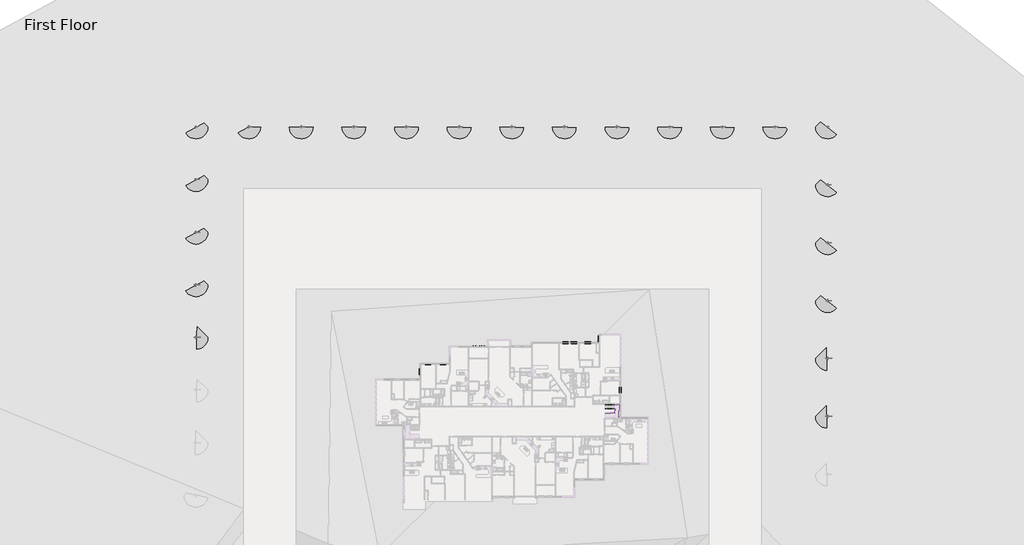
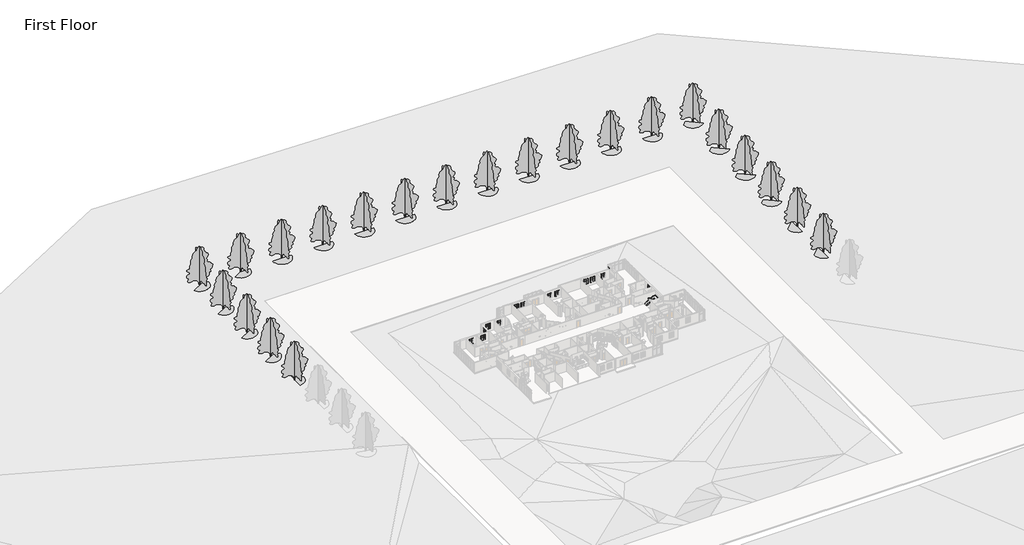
# One storey, part 17 of 17: 56 proxies, 22 geographic elements, 6 members.
"""IFC4 building model written with IfcOpenShell, lengths in millimetres."""

from ifc_helpers import new_model, si_unit, frame, origin, place, context, project, spatial, polyline, outline, extrude, faceted_brep, transform, mapped, element, save
from components import muntin_pattern_2x2_muntin_pattern_2x2_6dad3731, muntin_pattern_2x2_muntin_pattern_2x2_a30a3345, trim_window_exterior_flat_with_sill_92b9b949, trim_window_interior_flat_picture_frame_3bb882cf, rpc_tree_deciduous_lombardy_poplar_40_01077960

model = new_model("IFC4")

# Units and contexts
model_context = context("Model", 3, world=origin())
ifc_project = project(units=[si_unit("LENGTHUNIT", "METRE", prefix="MILLI")], contexts=[model_context])

# Site, building, storey
site = spatial("IfcSite", under=ifc_project)
building = spatial("IfcBuilding", under=site)
storey = spatial("IfcBuildingStorey", under=building, Name="First Floor", Elevation=0.0)

# Proxies
placement = place(None, origin())
muntin_pattern_2x2_muntin_pattern_2x2_shape = muntin_pattern_2x2_muntin_pattern_2x2_6dad3731(model_context)
element("IfcBuildingElementProxy", 1, Name="Muntin Pattern_2x2 : Muntin Pattern_2x2", ObjectType="Muntin Pattern_2x2 : Muntin Pattern_2x2", at=placement, inside=storey, context=model_context, shape_type="MappedRepresentation", body=[
    mapped(muntin_pattern_2x2_muntin_pattern_2x2_shape, transform((57292.8587704, 6466.9511142, 984.25), x_axis=(0.0, -1.0, 0.0), y_axis=(1.0, 0.0, 0.0), z_axis=(0.0, 0.0, 1.0))),
])
element("IfcBuildingElementProxy", 2, Name="Muntin Pattern_2x2 : Muntin Pattern_2x2", ObjectType="Muntin Pattern_2x2 : Muntin Pattern_2x2", at=placement, inside=storey, context=model_context, shape_type="MappedRepresentation", body=[
    mapped(muntin_pattern_2x2_muntin_pattern_2x2_shape, transform((44168.1303001, 17237.1539258, 984.25), x_axis=(1.0, 0.0, 0.0), y_axis=(0.0, 1.0, 0.0), z_axis=(0.0, 0.0, 1.0))),
])
element("IfcBuildingElementProxy", 3, Name="Muntin Pattern_2x2 : Muntin Pattern_2x2", ObjectType="Muntin Pattern_2x2 : Muntin Pattern_2x2", at=placement, inside=storey, context=model_context, shape_type="MappedRepresentation", body=[
    mapped(muntin_pattern_2x2_muntin_pattern_2x2_shape, transform((49322.2065151, 17237.1539258, 984.25), x_axis=(1.0, 0.0, 0.0), y_axis=(0.0, 1.0, 0.0), z_axis=(0.0, 0.0, 1.0))),
])
element("IfcBuildingElementProxy", 4, Name="Muntin Pattern_2x2 : Muntin Pattern_2x2", ObjectType="Muntin Pattern_2x2 : Muntin Pattern_2x2", at=placement, inside=storey, context=model_context, shape_type="MappedRepresentation", body=[
    mapped(muntin_pattern_2x2_muntin_pattern_2x2_shape, transform((5255.9772364, 8703.1052849, 984.25), x_axis=(1.0, 0.0, 0.0), y_axis=(0.0, 1.0, 0.0), z_axis=(0.0, 0.0, 1.0))),
])
element("IfcBuildingElementProxy", 5, Name="Muntin Pattern_2x2 : Muntin Pattern_2x2", ObjectType="Muntin Pattern_2x2 : Muntin Pattern_2x2", at=placement, inside=storey, context=model_context, shape_type="MappedRepresentation", body=[
    mapped(muntin_pattern_2x2_muntin_pattern_2x2_shape, transform((8741.9706159, 8703.1052849, 984.25), x_axis=(1.0, 0.0, 0.0), y_axis=(0.0, 1.0, 0.0), z_axis=(0.0, 0.0, 1.0))),
])
element("IfcBuildingElementProxy", 6, Name="Muntin Pattern_2x2 : Muntin Pattern_2x2", ObjectType="Muntin Pattern_2x2 : Muntin Pattern_2x2", at=placement, inside=storey, context=model_context, shape_type="MappedRepresentation", body=[
    mapped(muntin_pattern_2x2_muntin_pattern_2x2_shape, transform((10691.4206159, 10096.9302849, 984.25), x_axis=(0.0, 1.0, 0.0), y_axis=(-1.0, 0.0, 0.0), z_axis=(0.0, 0.0, 1.0))),
])
element("IfcBuildingElementProxy", 7, Name="Muntin Pattern_2x2 : Muntin Pattern_2x2", ObjectType="Muntin Pattern_2x2 : Muntin Pattern_2x2", at=placement, inside=storey, context=model_context, shape_type="MappedRepresentation", body=[
    mapped(muntin_pattern_2x2_muntin_pattern_2x2_shape, transform((12342.4127788, 12360.7052849, 984.25), x_axis=(1.0, 0.0, 0.0), y_axis=(0.0, 1.0, 0.0), z_axis=(0.0, 0.0, 1.0))),
])
element("IfcBuildingElementProxy", 8, Name="Muntin Pattern_2x2 : Muntin Pattern_2x2", ObjectType="Muntin Pattern_2x2 : Muntin Pattern_2x2", at=placement, inside=storey, context=model_context, shape_type="MappedRepresentation", body=[
    mapped(muntin_pattern_2x2_muntin_pattern_2x2_shape, transform((15770.2335512, 12360.7052849, 984.25), x_axis=(1.0, 0.0, 0.0), y_axis=(0.0, 1.0, 0.0), z_axis=(0.0, 0.0, 1.0))),
])
element("IfcBuildingElementProxy", 9, Name="Muntin Pattern_2x2 : Muntin Pattern_2x2", ObjectType="Muntin Pattern_2x2 : Muntin Pattern_2x2", at=placement, inside=storey, context=model_context, shape_type="MappedRepresentation", body=[
    mapped(muntin_pattern_2x2_muntin_pattern_2x2_shape, transform((23091.4448571, 16338.2416823, 984.25), x_axis=(1.0, 0.0, 0.0), y_axis=(0.0, 1.0, 0.0), z_axis=(0.0, 0.0, 1.0))),
])
element("IfcBuildingElementProxy", 10, Name="Muntin Pattern_2x2 : Muntin Pattern_2x2", ObjectType="Muntin Pattern_2x2 : Muntin Pattern_2x2", at=placement, inside=storey, context=model_context, shape_type="MappedRepresentation", body=[
    mapped(muntin_pattern_2x2_muntin_pattern_2x2_shape, transform((25039.3073571, 16338.2416823, 984.25), x_axis=(1.0, 0.0, 0.0), y_axis=(0.0, 1.0, 0.0), z_axis=(0.0, 0.0, 1.0))),
])
element("IfcBuildingElementProxy", 11, Name="Muntin Pattern_2x2 : Muntin Pattern_2x2", ObjectType="Muntin Pattern_2x2 : Muntin Pattern_2x2", at=placement, inside=storey, context=model_context, shape_type="MappedRepresentation", body=[
    mapped(muntin_pattern_2x2_muntin_pattern_2x2_shape, transform((32933.4798474, 16350.1365339, 984.25), x_axis=(1.0, 0.0, 0.0), y_axis=(0.0, 1.0, 0.0), z_axis=(0.0, 0.0, 1.0))),
])
element("IfcBuildingElementProxy", 12, Name="Muntin Pattern_2x2 : Muntin Pattern_2x2", ObjectType="Muntin Pattern_2x2 : Muntin Pattern_2x2", at=placement, inside=storey, context=model_context, shape_type="MappedRepresentation", body=[
    mapped(muntin_pattern_2x2_muntin_pattern_2x2_shape, transform((35152.7178001, 16350.1365339, 984.25), x_axis=(1.0, 0.0, 0.0), y_axis=(0.0, 1.0, 0.0), z_axis=(0.0, 0.0, 1.0))),
])
element("IfcBuildingElementProxy", 13, Name="Muntin Pattern_2x2 : Muntin Pattern_2x2", ObjectType="Muntin Pattern_2x2 : Muntin Pattern_2x2", at=placement, inside=storey, context=model_context, shape_type="MappedRepresentation", body=[
    mapped(muntin_pattern_2x2_muntin_pattern_2x2_shape, transform((46113.4815143, 17237.1539258, 984.25), x_axis=(1.0, 0.0, 0.0), y_axis=(0.0, 1.0, 0.0), z_axis=(0.0, 0.0, 1.0))),
])
element("IfcBuildingElementProxy", 14, Name="Muntin Pattern_2x2 : Muntin Pattern_2x2", ObjectType="Muntin Pattern_2x2 : Muntin Pattern_2x2", at=placement, inside=storey, context=model_context, shape_type="MappedRepresentation", body=[
    mapped(muntin_pattern_2x2_muntin_pattern_2x2_shape, transform((52166.5909229, 17728.7417038, 984.25), x_axis=(0.0, 1.0, 0.0), y_axis=(-1.0, 0.0, 0.0), z_axis=(0.0, 0.0, 1.0))),
])
muntin_pattern_2x2_muntin_pattern_2x2_2_shape = muntin_pattern_2x2_muntin_pattern_2x2_a30a3345(model_context)
element("IfcBuildingElementProxy", 15, Name="Muntin Pattern_2x2 : Muntin Pattern_2x2", ObjectType="Muntin Pattern_2x2 : Muntin Pattern_2x2", at=placement, inside=storey, context=model_context, shape_type="MappedRepresentation", body=[
    mapped(muntin_pattern_2x2_muntin_pattern_2x2_2_shape, transform((57292.8587704, 5860.5261142, 984.25), x_axis=(0.0, 1.0, 0.0), y_axis=(-1.0, 0.0, 0.0), z_axis=(0.0, 0.0, 1.0))),
])
element("IfcBuildingElementProxy", 16, Name="Muntin Pattern_2x2 : Muntin Pattern_2x2", ObjectType="Muntin Pattern_2x2 : Muntin Pattern_2x2", at=placement, inside=storey, context=model_context, shape_type="MappedRepresentation", body=[
    mapped(muntin_pattern_2x2_muntin_pattern_2x2_2_shape, transform((44774.5553001, 17237.1539258, 984.25), x_axis=(-1.0, 0.0, 0.0), y_axis=(0.0, -1.0, 0.0), z_axis=(0.0, 0.0, 1.0))),
])
element("IfcBuildingElementProxy", 17, Name="Muntin Pattern_2x2 : Muntin Pattern_2x2", ObjectType="Muntin Pattern_2x2 : Muntin Pattern_2x2", at=placement, inside=storey, context=model_context, shape_type="MappedRepresentation", body=[
    mapped(muntin_pattern_2x2_muntin_pattern_2x2_2_shape, transform((49928.6315151, 17237.1539258, 984.25), x_axis=(-1.0, 0.0, 0.0), y_axis=(0.0, -1.0, 0.0), z_axis=(0.0, 0.0, 1.0))),
])
element("IfcBuildingElementProxy", 18, Name="Muntin Pattern_2x2 : Muntin Pattern_2x2", ObjectType="Muntin Pattern_2x2 : Muntin Pattern_2x2", at=placement, inside=storey, context=model_context, shape_type="MappedRepresentation", body=[
    mapped(muntin_pattern_2x2_muntin_pattern_2x2_2_shape, transform((5862.4022364, 8703.1052849, 984.25), x_axis=(-1.0, 0.0, 0.0), y_axis=(0.0, -1.0, 0.0), z_axis=(0.0, 0.0, 1.0))),
])
element("IfcBuildingElementProxy", 19, Name="Muntin Pattern_2x2 : Muntin Pattern_2x2", ObjectType="Muntin Pattern_2x2 : Muntin Pattern_2x2", at=placement, inside=storey, context=model_context, shape_type="MappedRepresentation", body=[
    mapped(muntin_pattern_2x2_muntin_pattern_2x2_2_shape, transform((9348.3956159, 8703.1052849, 984.25), x_axis=(-1.0, 0.0, 0.0), y_axis=(0.0, -1.0, 0.0), z_axis=(0.0, 0.0, 1.0))),
])
element("IfcBuildingElementProxy", 20, Name="Muntin Pattern_2x2 : Muntin Pattern_2x2", ObjectType="Muntin Pattern_2x2 : Muntin Pattern_2x2", at=placement, inside=storey, context=model_context, shape_type="MappedRepresentation", body=[
    mapped(muntin_pattern_2x2_muntin_pattern_2x2_2_shape, transform((10691.4206159, 10703.3552849, 984.25), x_axis=(0.0, -1.0, 0.0), y_axis=(1.0, 0.0, 0.0), z_axis=(0.0, 0.0, 1.0))),
])
element("IfcBuildingElementProxy", 21, Name="Muntin Pattern_2x2 : Muntin Pattern_2x2", ObjectType="Muntin Pattern_2x2 : Muntin Pattern_2x2", at=placement, inside=storey, context=model_context, shape_type="MappedRepresentation", body=[
    mapped(muntin_pattern_2x2_muntin_pattern_2x2_2_shape, transform((12948.8377788, 12360.7052849, 984.25), x_axis=(-1.0, 0.0, 0.0), y_axis=(0.0, -1.0, 0.0), z_axis=(0.0, 0.0, 1.0))),
])
element("IfcBuildingElementProxy", 22, Name="Muntin Pattern_2x2 : Muntin Pattern_2x2", ObjectType="Muntin Pattern_2x2 : Muntin Pattern_2x2", at=placement, inside=storey, context=model_context, shape_type="MappedRepresentation", body=[
    mapped(muntin_pattern_2x2_muntin_pattern_2x2_2_shape, transform((16376.6585512, 12360.7052849, 984.25), x_axis=(-1.0, 0.0, 0.0), y_axis=(0.0, -1.0, 0.0), z_axis=(0.0, 0.0, 1.0))),
])
element("IfcBuildingElementProxy", 23, Name="Muntin Pattern_2x2 : Muntin Pattern_2x2", ObjectType="Muntin Pattern_2x2 : Muntin Pattern_2x2", at=placement, inside=storey, context=model_context, shape_type="MappedRepresentation", body=[
    mapped(muntin_pattern_2x2_muntin_pattern_2x2_2_shape, transform((23697.8698571, 16338.2416823, 984.25), x_axis=(-1.0, 0.0, 0.0), y_axis=(0.0, -1.0, 0.0), z_axis=(0.0, 0.0, 1.0))),
])
element("IfcBuildingElementProxy", 24, Name="Muntin Pattern_2x2 : Muntin Pattern_2x2", ObjectType="Muntin Pattern_2x2 : Muntin Pattern_2x2", at=placement, inside=storey, context=model_context, shape_type="MappedRepresentation", body=[
    mapped(muntin_pattern_2x2_muntin_pattern_2x2_2_shape, transform((25645.7323571, 16338.2416823, 984.25), x_axis=(-1.0, 0.0, 0.0), y_axis=(0.0, -1.0, 0.0), z_axis=(0.0, 0.0, 1.0))),
])
element("IfcBuildingElementProxy", 25, Name="Muntin Pattern_2x2 : Muntin Pattern_2x2", ObjectType="Muntin Pattern_2x2 : Muntin Pattern_2x2", at=placement, inside=storey, context=model_context, shape_type="MappedRepresentation", body=[
    mapped(muntin_pattern_2x2_muntin_pattern_2x2_2_shape, transform((33539.9048474, 16350.1365339, 984.25), x_axis=(-1.0, 0.0, 0.0), y_axis=(0.0, -1.0, 0.0), z_axis=(0.0, 0.0, 1.0))),
])
element("IfcBuildingElementProxy", 26, Name="Muntin Pattern_2x2 : Muntin Pattern_2x2", ObjectType="Muntin Pattern_2x2 : Muntin Pattern_2x2", at=placement, inside=storey, context=model_context, shape_type="MappedRepresentation", body=[
    mapped(muntin_pattern_2x2_muntin_pattern_2x2_2_shape, transform((35759.1428001, 16350.1365339, 984.25), x_axis=(-1.0, 0.0, 0.0), y_axis=(0.0, -1.0, 0.0), z_axis=(0.0, 0.0, 1.0))),
])
element("IfcBuildingElementProxy", 27, Name="Muntin Pattern_2x2 : Muntin Pattern_2x2", ObjectType="Muntin Pattern_2x2 : Muntin Pattern_2x2", at=placement, inside=storey, context=model_context, shape_type="MappedRepresentation", body=[
    mapped(muntin_pattern_2x2_muntin_pattern_2x2_2_shape, transform((46719.9065143, 17237.1539258, 984.25), x_axis=(-1.0, 0.0, 0.0), y_axis=(0.0, -1.0, 0.0), z_axis=(0.0, 0.0, 1.0))),
])
element("IfcBuildingElementProxy", 28, Name="Muntin Pattern_2x2 : Muntin Pattern_2x2", ObjectType="Muntin Pattern_2x2 : Muntin Pattern_2x2", at=placement, inside=storey, context=model_context, shape_type="MappedRepresentation", body=[
    mapped(muntin_pattern_2x2_muntin_pattern_2x2_2_shape, transform((52166.5909229, 18335.1667038, 984.25), x_axis=(0.0, -1.0, 0.0), y_axis=(1.0, 0.0, 0.0), z_axis=(0.0, 0.0, 1.0))),
])
trim_window_exterior_flat_with_sill_shape = trim_window_exterior_flat_with_sill_92b9b949(model_context)
element("IfcBuildingElementProxy", 29, Name="Trim-Window-Exterior-Flat : with Sill", ObjectType="Trim-Window-Exterior-Flat : with Sill", at=placement, inside=storey, context=model_context, shape_type="MappedRepresentation", body=[
    mapped(trim_window_exterior_flat_with_sill_shape, transform((57302.3837704, 6163.7386142, 2438.4), x_axis=(0.0, 1.0, 0.0), y_axis=(0.0, 0.0, 1.0), z_axis=(1.0, 0.0, 0.0))),
])
element("IfcBuildingElementProxy", 30, Name="Trim-Window-Exterior-Flat : with Sill", ObjectType="Trim-Window-Exterior-Flat : with Sill", at=placement, inside=storey, context=model_context, shape_type="MappedRepresentation", body=[
    mapped(trim_window_exterior_flat_with_sill_shape, transform((44471.3428001, 17246.6789258, 2438.4), x_axis=(-1.0, 0.0, 0.0), y_axis=(0.0, 0.0, 1.0), z_axis=(0.0, 1.0, 0.0))),
])
element("IfcBuildingElementProxy", 31, Name="Trim-Window-Exterior-Flat : with Sill", ObjectType="Trim-Window-Exterior-Flat : with Sill", at=placement, inside=storey, context=model_context, shape_type="MappedRepresentation", body=[
    mapped(trim_window_exterior_flat_with_sill_shape, transform((49625.4190151, 17246.6789258, 2438.4), x_axis=(-1.0, 0.0, 0.0), y_axis=(0.0, 0.0, 1.0), z_axis=(0.0, 1.0, 0.0))),
])
element("IfcBuildingElementProxy", 32, Name="Trim-Window-Exterior-Flat : with Sill", ObjectType="Trim-Window-Exterior-Flat : with Sill", at=placement, inside=storey, context=model_context, shape_type="MappedRepresentation", body=[
    mapped(trim_window_exterior_flat_with_sill_shape, transform((5559.1897364, 8712.6302849, 2438.4), x_axis=(-1.0, 0.0, 0.0), y_axis=(0.0, 0.0, 1.0), z_axis=(0.0, 1.0, 0.0))),
])
element("IfcBuildingElementProxy", 33, Name="Trim-Window-Exterior-Flat : with Sill", ObjectType="Trim-Window-Exterior-Flat : with Sill", at=placement, inside=storey, context=model_context, shape_type="MappedRepresentation", body=[
    mapped(trim_window_exterior_flat_with_sill_shape, transform((9045.1831159, 8712.6302849, 2438.4), x_axis=(-1.0, 0.0, 0.0), y_axis=(0.0, 0.0, 1.0), z_axis=(0.0, 1.0, 0.0))),
])
element("IfcBuildingElementProxy", 34, Name="Trim-Window-Exterior-Flat : with Sill", ObjectType="Trim-Window-Exterior-Flat : with Sill", at=placement, inside=storey, context=model_context, shape_type="MappedRepresentation", body=[
    mapped(trim_window_exterior_flat_with_sill_shape, transform((10681.8956159, 10400.1427849, 2438.4), x_axis=(0.0, -1.0, 0.0), y_axis=(0.0, 0.0, 1.0), z_axis=(-1.0, 0.0, 0.0))),
])
element("IfcBuildingElementProxy", 35, Name="Trim-Window-Exterior-Flat : with Sill", ObjectType="Trim-Window-Exterior-Flat : with Sill", at=placement, inside=storey, context=model_context, shape_type="MappedRepresentation", body=[
    mapped(trim_window_exterior_flat_with_sill_shape, transform((12645.6252788, 12370.2302849, 2438.4), x_axis=(-1.0, 0.0, 0.0), y_axis=(0.0, 0.0, 1.0), z_axis=(0.0, 1.0, 0.0))),
])
element("IfcBuildingElementProxy", 36, Name="Trim-Window-Exterior-Flat : with Sill", ObjectType="Trim-Window-Exterior-Flat : with Sill", at=placement, inside=storey, context=model_context, shape_type="MappedRepresentation", body=[
    mapped(trim_window_exterior_flat_with_sill_shape, transform((16073.4460512, 12370.2302849, 2438.4), x_axis=(-1.0, 0.0, 0.0), y_axis=(0.0, 0.0, 1.0), z_axis=(0.0, 1.0, 0.0))),
])
element("IfcBuildingElementProxy", 37, Name="Trim-Window-Exterior-Flat : with Sill", ObjectType="Trim-Window-Exterior-Flat : with Sill", at=placement, inside=storey, context=model_context, shape_type="MappedRepresentation", body=[
    mapped(trim_window_exterior_flat_with_sill_shape, transform((23394.6573571, 16347.7666823, 2438.4), x_axis=(-1.0, 0.0, 0.0), y_axis=(0.0, 0.0, 1.0), z_axis=(0.0, 1.0, 0.0))),
])
element("IfcBuildingElementProxy", 38, Name="Trim-Window-Exterior-Flat : with Sill", ObjectType="Trim-Window-Exterior-Flat : with Sill", at=placement, inside=storey, context=model_context, shape_type="MappedRepresentation", body=[
    mapped(trim_window_exterior_flat_with_sill_shape, transform((25342.5198571, 16347.7666823, 2438.4), x_axis=(-1.0, 0.0, 0.0), y_axis=(0.0, 0.0, 1.0), z_axis=(0.0, 1.0, 0.0))),
])
element("IfcBuildingElementProxy", 39, Name="Trim-Window-Exterior-Flat : with Sill", ObjectType="Trim-Window-Exterior-Flat : with Sill", at=placement, inside=storey, context=model_context, shape_type="MappedRepresentation", body=[
    mapped(trim_window_exterior_flat_with_sill_shape, transform((33236.6923474, 16359.6615339, 2438.4), x_axis=(-1.0, 0.0, 0.0), y_axis=(0.0, 0.0, 1.0), z_axis=(0.0, 1.0, 0.0))),
])
element("IfcBuildingElementProxy", 40, Name="Trim-Window-Exterior-Flat : with Sill", ObjectType="Trim-Window-Exterior-Flat : with Sill", at=placement, inside=storey, context=model_context, shape_type="MappedRepresentation", body=[
    mapped(trim_window_exterior_flat_with_sill_shape, transform((35455.9303001, 16359.6615339, 2438.4), x_axis=(-1.0, 0.0, 0.0), y_axis=(0.0, 0.0, 1.0), z_axis=(0.0, 1.0, 0.0))),
])
element("IfcBuildingElementProxy", 41, Name="Trim-Window-Exterior-Flat : with Sill", ObjectType="Trim-Window-Exterior-Flat : with Sill", at=placement, inside=storey, context=model_context, shape_type="MappedRepresentation", body=[
    mapped(trim_window_exterior_flat_with_sill_shape, transform((46416.6940143, 17246.6789258, 2438.4), x_axis=(-1.0, 0.0, 0.0), y_axis=(0.0, 0.0, 1.0), z_axis=(0.0, 1.0, 0.0))),
])
element("IfcBuildingElementProxy", 42, Name="Trim-Window-Exterior-Flat : with Sill", ObjectType="Trim-Window-Exterior-Flat : with Sill", at=placement, inside=storey, context=model_context, shape_type="MappedRepresentation", body=[
    mapped(trim_window_exterior_flat_with_sill_shape, transform((52157.0659229, 18031.9542038, 2438.4), x_axis=(0.0, -1.0, 0.0), y_axis=(0.0, 0.0, 1.0), z_axis=(-1.0, 0.0, 0.0))),
])
trim_window_interior_flat_picture_frame_shape = trim_window_interior_flat_picture_frame_3bb882cf(model_context)
element("IfcBuildingElementProxy", 43, Name="Trim-Window-Interior-Flat : Picture Frame", ObjectType="Trim-Window-Interior-Flat : Picture Frame", at=placement, inside=storey, context=model_context, shape_type="MappedRepresentation", body=[
    mapped(trim_window_interior_flat_picture_frame_shape, transform((57019.8087704, 6163.7386142, 2438.4), x_axis=(0.0, -1.0, 0.0), y_axis=(0.0, 0.0, 1.0), z_axis=(-1.0, 0.0, 0.0))),
])
element("IfcBuildingElementProxy", 44, Name="Trim-Window-Interior-Flat : Picture Frame", ObjectType="Trim-Window-Interior-Flat : Picture Frame", at=placement, inside=storey, context=model_context, shape_type="MappedRepresentation", body=[
    mapped(trim_window_interior_flat_picture_frame_shape, transform((44471.3428001, 16964.1039258, 2438.4), x_axis=(1.0, 0.0, 0.0), y_axis=(0.0, 0.0, 1.0), z_axis=(0.0, -1.0, 0.0))),
])
element("IfcBuildingElementProxy", 45, Name="Trim-Window-Interior-Flat : Picture Frame", ObjectType="Trim-Window-Interior-Flat : Picture Frame", at=placement, inside=storey, context=model_context, shape_type="MappedRepresentation", body=[
    mapped(trim_window_interior_flat_picture_frame_shape, transform((49625.4190151, 16964.1039258, 2438.4), x_axis=(1.0, 0.0, 0.0), y_axis=(0.0, 0.0, 1.0), z_axis=(0.0, -1.0, 0.0))),
])
element("IfcBuildingElementProxy", 46, Name="Trim-Window-Interior-Flat : Picture Frame", ObjectType="Trim-Window-Interior-Flat : Picture Frame", at=placement, inside=storey, context=model_context, shape_type="MappedRepresentation", body=[
    mapped(trim_window_interior_flat_picture_frame_shape, transform((5559.1897364, 8430.0552849, 2438.4), x_axis=(1.0, 0.0, 0.0), y_axis=(0.0, 0.0, 1.0), z_axis=(0.0, -1.0, 0.0))),
])
element("IfcBuildingElementProxy", 47, Name="Trim-Window-Interior-Flat : Picture Frame", ObjectType="Trim-Window-Interior-Flat : Picture Frame", at=placement, inside=storey, context=model_context, shape_type="MappedRepresentation", body=[
    mapped(trim_window_interior_flat_picture_frame_shape, transform((9045.1831159, 8430.0552849, 2438.4), x_axis=(1.0, 0.0, 0.0), y_axis=(0.0, 0.0, 1.0), z_axis=(0.0, -1.0, 0.0))),
])
element("IfcBuildingElementProxy", 48, Name="Trim-Window-Interior-Flat : Picture Frame", ObjectType="Trim-Window-Interior-Flat : Picture Frame", at=placement, inside=storey, context=model_context, shape_type="MappedRepresentation", body=[
    mapped(trim_window_interior_flat_picture_frame_shape, transform((10964.4706159, 10400.1427849, 2438.4), x_axis=(0.0, 1.0, 0.0), y_axis=(0.0, 0.0, 1.0), z_axis=(1.0, 0.0, 0.0))),
])
element("IfcBuildingElementProxy", 49, Name="Trim-Window-Interior-Flat : Picture Frame", ObjectType="Trim-Window-Interior-Flat : Picture Frame", at=placement, inside=storey, context=model_context, shape_type="MappedRepresentation", body=[
    mapped(trim_window_interior_flat_picture_frame_shape, transform((12645.6252788, 12087.6552849, 2438.4), x_axis=(1.0, 0.0, 0.0), y_axis=(0.0, 0.0, 1.0), z_axis=(0.0, -1.0, 0.0))),
])
element("IfcBuildingElementProxy", 50, Name="Trim-Window-Interior-Flat : Picture Frame", ObjectType="Trim-Window-Interior-Flat : Picture Frame", at=placement, inside=storey, context=model_context, shape_type="MappedRepresentation", body=[
    mapped(trim_window_interior_flat_picture_frame_shape, transform((16073.4460512, 12087.6552849, 2438.4), x_axis=(1.0, 0.0, 0.0), y_axis=(0.0, 0.0, 1.0), z_axis=(0.0, -1.0, 0.0))),
])
element("IfcBuildingElementProxy", 51, Name="Trim-Window-Interior-Flat : Picture Frame", ObjectType="Trim-Window-Interior-Flat : Picture Frame", at=placement, inside=storey, context=model_context, shape_type="MappedRepresentation", body=[
    mapped(trim_window_interior_flat_picture_frame_shape, transform((23394.6573571, 16065.1916823, 2438.4), x_axis=(1.0, 0.0, 0.0), y_axis=(0.0, 0.0, 1.0), z_axis=(0.0, -1.0, 0.0))),
])
element("IfcBuildingElementProxy", 52, Name="Trim-Window-Interior-Flat : Picture Frame", ObjectType="Trim-Window-Interior-Flat : Picture Frame", at=placement, inside=storey, context=model_context, shape_type="MappedRepresentation", body=[
    mapped(trim_window_interior_flat_picture_frame_shape, transform((25342.5198571, 16065.1916823, 2438.4), x_axis=(1.0, 0.0, 0.0), y_axis=(0.0, 0.0, 1.0), z_axis=(0.0, -1.0, 0.0))),
])
element("IfcBuildingElementProxy", 53, Name="Trim-Window-Interior-Flat : Picture Frame", ObjectType="Trim-Window-Interior-Flat : Picture Frame", at=placement, inside=storey, context=model_context, shape_type="MappedRepresentation", body=[
    mapped(trim_window_interior_flat_picture_frame_shape, transform((33236.6923474, 16077.0865339, 2438.4), x_axis=(1.0, 0.0, 0.0), y_axis=(0.0, 0.0, 1.0), z_axis=(0.0, -1.0, 0.0))),
])
element("IfcBuildingElementProxy", 54, Name="Trim-Window-Interior-Flat : Picture Frame", ObjectType="Trim-Window-Interior-Flat : Picture Frame", at=placement, inside=storey, context=model_context, shape_type="MappedRepresentation", body=[
    mapped(trim_window_interior_flat_picture_frame_shape, transform((35455.9303001, 16077.0865339, 2438.4), x_axis=(1.0, 0.0, 0.0), y_axis=(0.0, 0.0, 1.0), z_axis=(0.0, -1.0, 0.0))),
])
element("IfcBuildingElementProxy", 55, Name="Trim-Window-Interior-Flat : Picture Frame", ObjectType="Trim-Window-Interior-Flat : Picture Frame", at=placement, inside=storey, context=model_context, shape_type="MappedRepresentation", body=[
    mapped(trim_window_interior_flat_picture_frame_shape, transform((46416.6940143, 16964.1039258, 2438.4), x_axis=(1.0, 0.0, 0.0), y_axis=(0.0, 0.0, 1.0), z_axis=(0.0, -1.0, 0.0))),
])
element("IfcBuildingElementProxy", 56, Name="Trim-Window-Interior-Flat : Picture Frame", ObjectType="Trim-Window-Interior-Flat : Picture Frame", at=placement, inside=storey, context=model_context, shape_type="MappedRepresentation", body=[
    mapped(trim_window_interior_flat_picture_frame_shape, transform((52439.6409229, 18031.9542038, 2438.4), x_axis=(0.0, 1.0, 0.0), y_axis=(0.0, 0.0, 1.0), z_axis=(1.0, 0.0, 0.0))),
])

# Geographic elements
rpc_tree_deciduous_lombardy_poplar_40_shape = rpc_tree_deciduous_lombardy_poplar_40_01077960(model_context)
element("IfcGeographicElement", 57, ObjectType="RPC Tree - Deciduous : Lombardy Poplar - 40'", at=placement, inside=storey, context=model_context, shape_type="MappedRepresentation", body=[
    mapped(rpc_tree_deciduous_lombardy_poplar_40_shape, transform((-41124.9762591, 67129.5339202, 81.0796974), x_axis=(1.0, 0.0, 0.0), y_axis=(0.0, 1.0, 0.0), z_axis=(0.0, 0.0, 1.0))),
])
element("IfcGeographicElement", 58, ObjectType="RPC Tree - Deciduous : Lombardy Poplar - 40'", at=placement, inside=storey, context=model_context, shape_type="MappedRepresentation", body=[
    mapped(rpc_tree_deciduous_lombardy_poplar_40_shape, transform((-28932.9762591, 67129.5339202, 50.0737296), x_axis=(1.0, 0.0, 0.0), y_axis=(0.0, 1.0, 0.0), z_axis=(0.0, 0.0, 1.0))),
])
element("IfcGeographicElement", 59, ObjectType="RPC Tree - Deciduous : Lombardy Poplar - 40'", at=placement, inside=storey, context=model_context, shape_type="MappedRepresentation", body=[
    mapped(rpc_tree_deciduous_lombardy_poplar_40_shape, transform((-16740.9762591, 67129.5339202, 50.3045168), x_axis=(1.0, 0.0, 0.0), y_axis=(0.0, 1.0, 0.0), z_axis=(0.0, 0.0, 1.0))),
])
element("IfcGeographicElement", 60, ObjectType="RPC Tree - Deciduous : Lombardy Poplar - 40'", at=placement, inside=storey, context=model_context, shape_type="MappedRepresentation", body=[
    mapped(rpc_tree_deciduous_lombardy_poplar_40_shape, transform((-4548.9762591, 67129.5339202, 50.535304), x_axis=(1.0, 0.0, 0.0), y_axis=(0.0, 1.0, 0.0), z_axis=(0.0, 0.0, 1.0))),
])
element("IfcGeographicElement", 61, ObjectType="RPC Tree - Deciduous : Lombardy Poplar - 40'", at=placement, inside=storey, context=model_context, shape_type="MappedRepresentation", body=[
    mapped(rpc_tree_deciduous_lombardy_poplar_40_shape, transform((7643.0237409, 67129.5339202, 50.7660912), x_axis=(1.0, 0.0, 0.0), y_axis=(0.0, 1.0, 0.0), z_axis=(0.0, 0.0, 1.0))),
])
element("IfcGeographicElement", 62, ObjectType="RPC Tree - Deciduous : Lombardy Poplar - 40'", at=placement, inside=storey, context=model_context, shape_type="MappedRepresentation", body=[
    mapped(rpc_tree_deciduous_lombardy_poplar_40_shape, transform((19835.0237409, 67129.5339202, 52.2718945), x_axis=(1.0, 0.0, 0.0), y_axis=(0.0, 1.0, 0.0), z_axis=(0.0, 0.0, 1.0))),
])
element("IfcGeographicElement", 63, ObjectType="RPC Tree - Deciduous : Lombardy Poplar - 40'", at=placement, inside=storey, context=model_context, shape_type="MappedRepresentation", body=[
    mapped(rpc_tree_deciduous_lombardy_poplar_40_shape, transform((32027.0237409, 67129.5339202, 54.3681151), x_axis=(1.0, 0.0, 0.0), y_axis=(0.0, 1.0, 0.0), z_axis=(0.0, 0.0, 1.0))),
])
element("IfcGeographicElement", 64, ObjectType="RPC Tree - Deciduous : Lombardy Poplar - 40'", at=placement, inside=storey, context=model_context, shape_type="MappedRepresentation", body=[
    mapped(rpc_tree_deciduous_lombardy_poplar_40_shape, transform((44219.0237409, 67129.5339202, 56.4643357), x_axis=(1.0, 0.0, 0.0), y_axis=(0.0, 1.0, 0.0), z_axis=(0.0, 0.0, 1.0))),
])
element("IfcGeographicElement", 65, ObjectType="RPC Tree - Deciduous : Lombardy Poplar - 40'", at=placement, inside=storey, context=model_context, shape_type="MappedRepresentation", body=[
    mapped(rpc_tree_deciduous_lombardy_poplar_40_shape, transform((56411.0237409, 67129.5339202, 58.5605563), x_axis=(1.0, 0.0, 0.0), y_axis=(0.0, 1.0, 0.0), z_axis=(0.0, 0.0, 1.0))),
])
element("IfcGeographicElement", 66, ObjectType="RPC Tree - Deciduous : Lombardy Poplar - 40'", at=placement, inside=storey, context=model_context, shape_type="MappedRepresentation", body=[
    mapped(rpc_tree_deciduous_lombardy_poplar_40_shape, transform((68603.0237409, 67129.5339202, 60.6567769), x_axis=(1.0, 0.0, 0.0), y_axis=(0.0, 1.0, 0.0), z_axis=(0.0, 0.0, 1.0))),
])
element("IfcGeographicElement", 67, ObjectType="RPC Tree - Deciduous : Lombardy Poplar - 40'", at=placement, inside=storey, context=model_context, shape_type="MappedRepresentation", body=[
    mapped(rpc_tree_deciduous_lombardy_poplar_40_shape, transform((80795.0237409, 67129.5339202, 62.7529975), x_axis=(1.0, 0.0, 0.0), y_axis=(0.0, 1.0, 0.0), z_axis=(0.0, 0.0, 1.0))),
])
element("IfcGeographicElement", 68, ObjectType="RPC Tree - Deciduous : Lombardy Poplar - 40'", at=placement, inside=storey, context=model_context, shape_type="MappedRepresentation", body=[
    mapped(rpc_tree_deciduous_lombardy_poplar_40_shape, transform((92987.0237409, 67129.5339202, 64.8492181), x_axis=(1.0, 0.0, 0.0), y_axis=(0.0, 1.0, 0.0), z_axis=(0.0, 0.0, 1.0))),
])
element("IfcGeographicElement", 69, ObjectType="RPC Tree - Deciduous : Lombardy Poplar - 40'", at=placement, inside=storey, context=model_context, shape_type="MappedRepresentation", body=[
    mapped(rpc_tree_deciduous_lombardy_poplar_40_shape, transform((105179.0237409, 67129.5339202, 98.3343), x_axis=(1.0, 0.0, 0.0), y_axis=(0.0, 1.0, 0.0), z_axis=(0.0, 0.0, 1.0))),
])
element("IfcGeographicElement", 70, ObjectType="RPC Tree - Deciduous : Lombardy Poplar - 40'", at=placement, inside=storey, context=model_context, shape_type="MappedRepresentation", body=[
    mapped(rpc_tree_deciduous_lombardy_poplar_40_shape, transform((-41124.9762591, 54937.5339202, 22.9782235), x_axis=(1.0, 0.0, 0.0), y_axis=(0.0, 1.0, 0.0), z_axis=(0.0, 0.0, 1.0))),
])
element("IfcGeographicElement", 71, ObjectType="RPC Tree - Deciduous : Lombardy Poplar - 40'", at=placement, inside=storey, context=model_context, shape_type="MappedRepresentation", body=[
    mapped(rpc_tree_deciduous_lombardy_poplar_40_shape, transform((-41124.9762591, 42745.5339202, -35.1232504), x_axis=(1.0, 0.0, 0.0), y_axis=(0.0, 1.0, 0.0), z_axis=(0.0, 0.0, 1.0))),
])
element("IfcGeographicElement", 72, ObjectType="RPC Tree - Deciduous : Lombardy Poplar - 40'", at=placement, inside=storey, context=model_context, shape_type="MappedRepresentation", body=[
    mapped(rpc_tree_deciduous_lombardy_poplar_40_shape, transform((-41124.9762591, 30553.5339202, -93.2247243), x_axis=(1.0, 0.0, 0.0), y_axis=(0.0, 1.0, 0.0), z_axis=(0.0, 0.0, 1.0))),
])
element("IfcGeographicElement", 73, ObjectType="RPC Tree - Deciduous : Lombardy Poplar - 40'", at=placement, inside=storey, context=model_context, shape_type="MappedRepresentation", body=[
    mapped(rpc_tree_deciduous_lombardy_poplar_40_shape, transform((-41124.9762591, 18361.5339202, -109.3585002), x_axis=(1.0, 0.0, 0.0), y_axis=(0.0, 1.0, 0.0), z_axis=(0.0, 0.0, 1.0))),
])
element("IfcGeographicElement", 74, ObjectType="RPC Tree - Deciduous : Lombardy Poplar - 40'", at=placement, inside=storey, context=model_context, shape_type="MappedRepresentation", body=[
    mapped(rpc_tree_deciduous_lombardy_poplar_40_shape, transform((105179.0237409, 53718.3339202, 40.2499206), x_axis=(1.0, 0.0, 0.0), y_axis=(0.0, 1.0, 0.0), z_axis=(0.0, 0.0, 1.0))),
])
element("IfcGeographicElement", 75, ObjectType="RPC Tree - Deciduous : Lombardy Poplar - 40'", at=placement, inside=storey, context=model_context, shape_type="MappedRepresentation", body=[
    mapped(rpc_tree_deciduous_lombardy_poplar_40_shape, transform((105179.0237409, 40307.1339202, -17.8344588), x_axis=(1.0, 0.0, 0.0), y_axis=(0.0, 1.0, 0.0), z_axis=(0.0, 0.0, 1.0))),
])
element("IfcGeographicElement", 76, ObjectType="RPC Tree - Deciduous : Lombardy Poplar - 40'", at=placement, inside=storey, context=model_context, shape_type="MappedRepresentation", body=[
    mapped(rpc_tree_deciduous_lombardy_poplar_40_shape, transform((105179.0237409, 26895.9339202, -75.9188382), x_axis=(1.0, 0.0, 0.0), y_axis=(0.0, 1.0, 0.0), z_axis=(0.0, 0.0, 1.0))),
])
element("IfcGeographicElement", 77, ObjectType="RPC Tree - Deciduous : Lombardy Poplar - 40'", at=placement, inside=storey, context=model_context, shape_type="MappedRepresentation", body=[
    mapped(rpc_tree_deciduous_lombardy_poplar_40_shape, transform((105179.0237409, 13484.7339202, -106.9878168), x_axis=(1.0, 0.0, 0.0), y_axis=(0.0, 1.0, 0.0), z_axis=(0.0, 0.0, 1.0))),
])
element("IfcGeographicElement", 78, ObjectType="RPC Tree - Deciduous : Lombardy Poplar - 40'", at=placement, inside=storey, context=model_context, shape_type="MappedRepresentation", body=[
    mapped(rpc_tree_deciduous_lombardy_poplar_40_shape, transform((105179.0237409, 73.5339202, -107.8490528), x_axis=(1.0, 0.0, 0.0), y_axis=(0.0, 1.0, 0.0), z_axis=(0.0, 0.0, 1.0))),
])

# Members
element("IfcMember", 79, ObjectType="Stringer - Paint - 3/4\" Width", at=placement, inside=storey, context=model_context, shape_type="SweptSolid", body=[
    extrude(outline(polyline([(229.8175423, 53716.1203872), (0.0, 53716.1203872), (0.0, 53924.995899), (1358.9, 56167.180899), (1663.7, 56082.0264425), (229.8175423, 53716.1203872)])), frame((0.0, 2740.3591714, 0.0), z_axis=(0.0, 1.0, 0.0), x_axis=(0.0, 0.0, 1.0)), (0.0, 0.0, 1.0), 19.05),
])
element("IfcMember", 80, ObjectType="Stringer - Paint - 3/4\" Width", at=placement, inside=storey, context=model_context, shape_type="SweptSolid", body=[
    extrude(outline(polyline([(229.8175423, 53716.1203872), (0.0, 53716.1203872), (0.0, 53924.995899), (1216.5299929, 55932.2703872), (1572.9387544, 55932.2703872), (229.8175423, 53716.1203872)])), frame((0.0, 1806.9091714, 0.0), z_axis=(0.0, 1.0, 0.0), x_axis=(0.0, 0.0, 1.0)), (0.0, 0.0, 1.0), 19.05),
])
element("IfcMember", 81, ObjectType="Stringer - Paint - 3/4\" Width", at=placement, inside=storey, context=model_context, shape_type="SweptSolid", body=[
    extrude(outline(polyline([(1397.4087807, 55951.3203872), (1753.8175423, 55951.3203872), (3108.4842089, 53716.1203872), (2752.0754474, 53716.1203872), (1397.4087807, 55951.3203872)])), frame((0.0, 799.1362442, 0.0), z_axis=(0.0, 1.0, 0.0), x_axis=(0.0, 0.0, 1.0)), (0.0, 0.0, 1.0), 19.05),
])
element("IfcMember", 82, ObjectType="Stringer - Paint - 3/4\" Width", at=placement, inside=storey, context=model_context, shape_type="SweptSolid", body=[
    extrude(outline(polyline([(56884.7703872, -134.3137558), (56865.7203872, -115.2637558), (56865.7203872, 2740.3591714), (56884.7703872, 2759.4091714), (56884.7703872, -134.3137558)])), frame((0.0, 0.0, 1358.9), z_axis=(0.0, 0.0, 1.0), x_axis=(1.0, 0.0, 0.0)), (0.0, 0.0, 1.0), 304.8),
])
element("IfcMember", 83, ObjectType="Stringer - Paint - 3/4\" Width", at=placement, inside=storey, context=model_context, shape_type="Brep", body=[
    faceted_brep([(56865.7203872, 2740.3591714, 1663.7), (56884.7703872, 2759.4091714, 1663.7), (56082.0264425, 2759.4091714, 1663.7), (56082.0264425, 2740.3591714, 1663.7), (56865.7203872, 2740.3591714, 1358.9), (56167.180899, 2740.3591714, 1358.9), (56884.7703872, 2759.4091714, 1358.9), (56167.180899, 2759.4091714, 1358.9)], [[[0, 1, 2, 3]], [[4, 0, 3, 5]], [[6, 4, 5, 7]], [[1, 6, 7, 2]], [[1, 0, 4, 6]], [[2, 7, 5, 3]]]),
])
element("IfcMember", 84, ObjectType="Stringer - Paint - 3/4\" Width", at=placement, inside=storey, context=model_context, shape_type="SweptSolid", body=[
    extrude(outline(polyline([(55932.2703872, 1825.9591714), (55951.3203872, 1825.9591714), (55951.3203872, 818.1862442), (55932.2703872, 818.1862442), (55932.2703872, 1825.9591714)])), frame((0.0, 0.0, 1358.9), z_axis=(0.0, 0.0, 1.0), x_axis=(1.0, 0.0, 0.0)), (0.0, 0.0, 1.0), 304.8),
])

save(model, "model.ifc")
